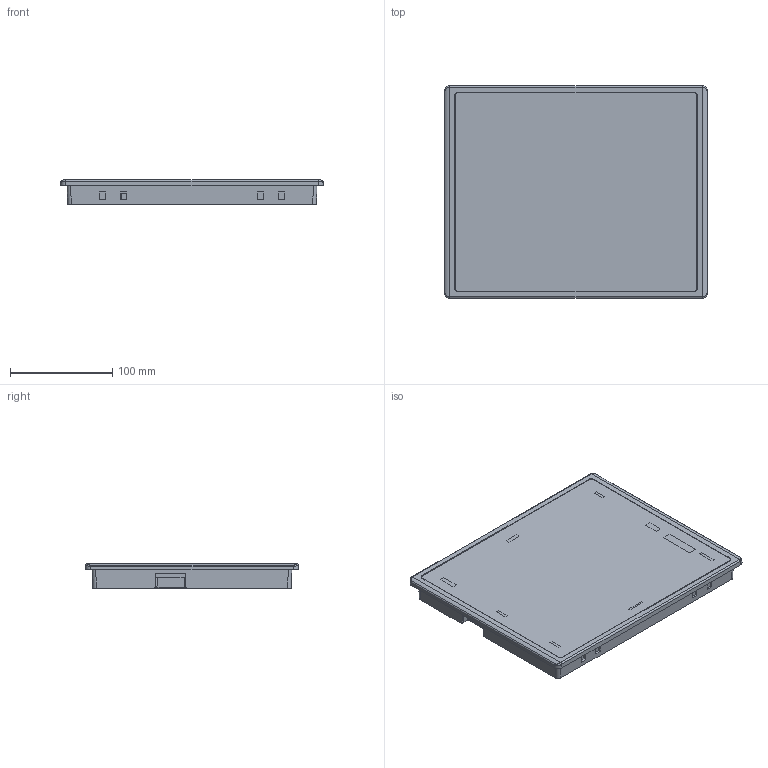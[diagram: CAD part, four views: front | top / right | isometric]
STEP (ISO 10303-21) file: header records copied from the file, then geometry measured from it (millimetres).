
FILE_DESCRIPTION((''),'2;1');
FILE_NAME('3D-DMT10768T097_15WT','2022-03-21T',('Administrator'),(''),'PRO/ENGINEER BY PARAMETRIC TECHNOLOGY CORPORATION, 2008380','PRO/ENGINEER BY PARAMETRIC TECHNOLOGY CORPORATION, 2008380','');
FILE_SCHEMA(('CONFIG_CONTROL_DESIGN'));
Length unit declared in the file: millimetre
Products named in the file (1): 3D-DMT10768T097_15WT
Bounding box: 257 x 208 x 24 mm (x, y, z)
Volume: 1064605.2 mm3; surface area: 204550.5 mm2
Topology: 1 solids, 1 shells, 1188 faces, 3204 edges, 2129 vertices
Faces by surface type: plane 798, cone 232, cylinder 142, bspline 16
Entity records: 38475 total; most frequent: CARTESIAN_POINT 7917, ORIENTED_EDGE 6408, DIRECTION 6190, EDGE_CURVE 3204, VECTOR 2352, LINE 2352, VERTEX_POINT 2129, AXIS2_PLACEMENT_3D 1919
